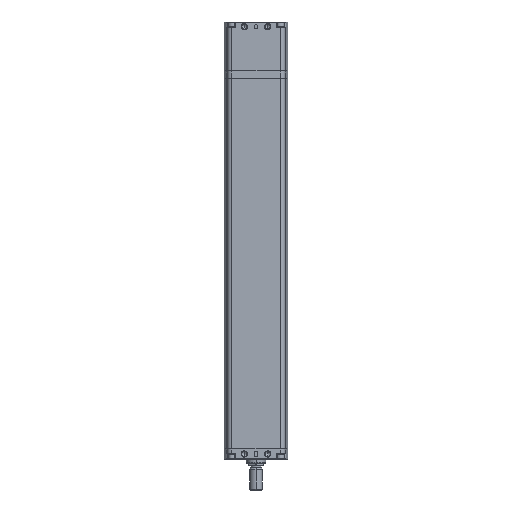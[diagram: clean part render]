
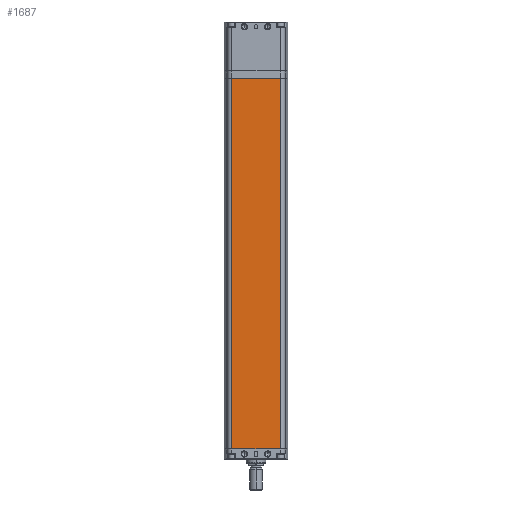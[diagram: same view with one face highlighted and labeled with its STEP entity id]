
A CAD part, front view. The second image highlights one B-rep face of the part: STEP entity #1687.
In plain terms, the highlighted planar face has unit normal (0, -1, 0).
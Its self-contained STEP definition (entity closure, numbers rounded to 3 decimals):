
#678 = LINE ( 'NONE', #7671, #1027 ) ;
#1027 = VECTOR ( 'NONE', #2502, 1000. ) ;
#1687 = ADVANCED_FACE ( 'NONE', ( #21504 ), #13228, .T. ) ;
#2502 = DIRECTION ( 'NONE',  ( 1., 0., 0. ) ) ;
#2599 = ORIENTED_EDGE ( 'NONE', *, *, #19143, .T. ) ;
#2619 = VERTEX_POINT ( 'NONE', #7490 ) ;
#3550 = CARTESIAN_POINT ( 'NONE',  ( -31.138, -41., -1073. ) ) ;
#3712 = VERTEX_POINT ( 'NONE', #14457 ) ;
#4262 = ORIENTED_EDGE ( 'NONE', *, *, #19537, .T. ) ;
#6030 = CARTESIAN_POINT ( 'NONE',  ( -41., -41., -1073. ) ) ;
#6125 = CARTESIAN_POINT ( 'NONE',  ( 31.138, -41., -1073. ) ) ;
#6490 = DIRECTION ( 'NONE',  ( 0., 0., -1. ) ) ;
#6790 = EDGE_LOOP ( 'NONE', ( #10530, #4262, #2599, #21797 ) ) ;
#6871 = CARTESIAN_POINT ( 'NONE',  ( -41., -41., -73. ) ) ;
#6977 = EDGE_CURVE ( 'NONE', #3712, #11435, #20639, .T. ) ;
#7224 = EDGE_CURVE ( 'NONE', #3712, #2619, #12133, .T. ) ;
#7490 = CARTESIAN_POINT ( 'NONE',  ( -31.138, -41., -551. ) ) ;
#7671 = CARTESIAN_POINT ( 'NONE',  ( -41., -41., -551. ) ) ;
#9741 = DIRECTION ( 'NONE',  ( 0., -1., 0. ) ) ;
#10530 = ORIENTED_EDGE ( 'NONE', *, *, #7224, .T. ) ;
#11279 = VERTEX_POINT ( 'NONE', #15941 ) ;
#11435 = VERTEX_POINT ( 'NONE', #18071 ) ;
#12133 = LINE ( 'NONE', #3550, #14366 ) ;
#13228 = PLANE ( 'NONE',  #21730 ) ;
#14366 = VECTOR ( 'NONE', #6490, 1000. ) ;
#14457 = CARTESIAN_POINT ( 'NONE',  ( -31.138, -41., -73. ) ) ;
#15106 = VECTOR ( 'NONE', #16321, 1000. ) ;
#15926 = DIRECTION ( 'NONE',  ( 1., 0., 0. ) ) ;
#15941 = CARTESIAN_POINT ( 'NONE',  ( 31.138, -41., -551. ) ) ;
#16321 = DIRECTION ( 'NONE',  ( 0., 0., 1. ) ) ;
#16451 = DIRECTION ( 'NONE',  ( 0., 0., -1. ) ) ;
#18071 = CARTESIAN_POINT ( 'NONE',  ( 31.138, -41., -73. ) ) ;
#19143 = EDGE_CURVE ( 'NONE', #11279, #11435, #21811, .T. ) ;
#19537 = EDGE_CURVE ( 'NONE', #2619, #11279, #678, .T. ) ;
#20126 = VECTOR ( 'NONE', #15926, 1000. ) ;
#20639 = LINE ( 'NONE', #6871, #20126 ) ;
#21504 = FACE_OUTER_BOUND ( 'NONE', #6790, .T. ) ;
#21730 = AXIS2_PLACEMENT_3D ( 'NONE', #6030, #9741, #16451 ) ;
#21797 = ORIENTED_EDGE ( 'NONE', *, *, #6977, .F. ) ;
#21811 = LINE ( 'NONE', #6125, #15106 ) ;
